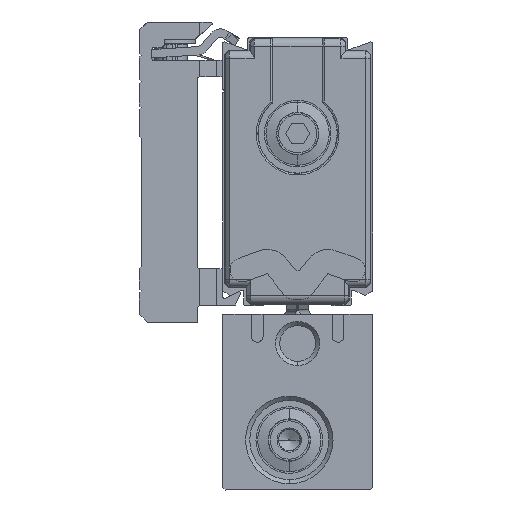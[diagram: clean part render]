
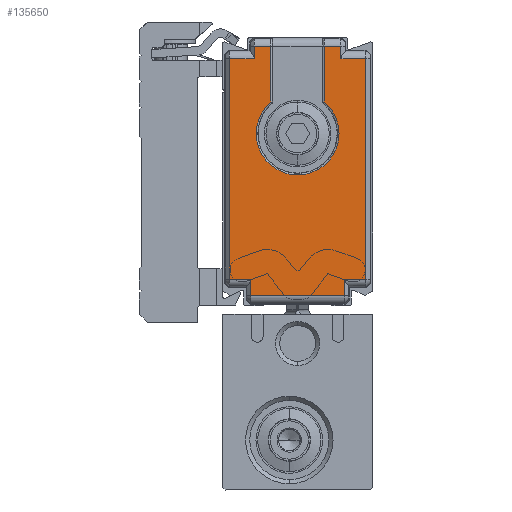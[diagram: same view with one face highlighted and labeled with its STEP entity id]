
A CAD part, left-side view. The second image highlights one B-rep face of the part: STEP entity #135650.
In plain terms, the highlighted planar face has unit normal (-1, 0, 0) as drawn and (0, 0, -1) by its records, which use the part's own axes.
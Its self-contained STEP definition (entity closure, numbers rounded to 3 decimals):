
#133560=CARTESIAN_POINT('',(29.865,18.802,-494.5));
#133570=VERTEX_POINT('',#133560);
#134020=CARTESIAN_POINT('',(3.435,18.802,-494.5));
#134030=VERTEX_POINT('',#134020);
#134080=CARTESIAN_POINT('',(3.435,18.802,-494.5));
#134090=CARTESIAN_POINT('',(7.84,18.802,-494.5));
#134100=CARTESIAN_POINT('',(12.245,18.802,-494.5));
#134110=CARTESIAN_POINT('',(21.055,18.802,-494.5));
#134120=CARTESIAN_POINT('',(25.46,18.802,-494.5));
#134130=CARTESIAN_POINT('',(29.865,18.802,-494.5));
#134140=B_SPLINE_CURVE_WITH_KNOTS('',3,(#134080,#134090,#134100,#134110,
#134120,#134130),.UNSPECIFIED.,.F.,.F.,(4,2,4),(24.334,
37.549,50.764),.UNSPECIFIED.);
#134150=EDGE_CURVE('',#134030,#133570,#134140,.T.);
#134270=CARTESIAN_POINT('',(16.65,27.,-494.5));
#134280=DIRECTION('',(0.,0.,1.));
#134290=DIRECTION('',(0.,1.,0.));
#134300=AXIS2_PLACEMENT_3D('',#134270,#134280,#134290);
#134310=PLANE('',#134300);
#134320=CARTESIAN_POINT('',(20.9,27.,-494.5));
#134330=DIRECTION('',(0.,0.,-1.));
#134340=DIRECTION('',(0.,1.,0.));
#134350=AXIS2_PLACEMENT_3D('',#134320,#134330,#134340);
#134360=CIRCLE('',#134350,4.974);
#134370=CARTESIAN_POINT('',(24.688,23.776,-494.5));
#134380=VERTEX_POINT('',#134370);
#134390=CARTESIAN_POINT('',(24.688,30.224,-494.5));
#134400=VERTEX_POINT('',#134390);
#134410=EDGE_CURVE('',#134380,#134400,#134360,.T.);
#134420=ORIENTED_EDGE('',*,*,#134410,.F.);
#134430=CARTESIAN_POINT('',(0.15,30.224,-494.5));
#134440=DIRECTION('',(1.,0.,0.));
#134450=VECTOR('',#134440,1.);
#134460=LINE('',#134430,#134450);
#134470=CARTESIAN_POINT('',(31.365,30.224,-494.5));
#134480=VERTEX_POINT('',#134470);
#134490=EDGE_CURVE('',#134400,#134480,#134460,.T.);
#134500=ORIENTED_EDGE('',*,*,#134490,.F.);
#134510=CARTESIAN_POINT('',(31.365,35.75,-494.5));
#134520=DIRECTION('',(0.,-1.,0.));
#134530=VECTOR('',#134520,1.);
#134540=LINE('',#134510,#134530);
#134550=CARTESIAN_POINT('',(31.365,32.198,-494.5));
#134560=VERTEX_POINT('',#134550);
#134570=EDGE_CURVE('',#134560,#134480,#134540,.T.);
#134580=ORIENTED_EDGE('',*,*,#134570,.T.);
#134590=CARTESIAN_POINT('',(29.365,32.198,-494.5));
#134600=CARTESIAN_POINT('',(29.782,32.198,-494.5));
#134610=CARTESIAN_POINT('',(30.198,32.198,-494.5));
#134620=CARTESIAN_POINT('',(30.865,32.198,-494.5));
#134630=CARTESIAN_POINT('',(31.115,32.198,-494.5));
#134640=CARTESIAN_POINT('',(31.365,32.198,-494.5));
#134650=B_SPLINE_CURVE_WITH_KNOTS('',3,(#134590,#134600,#134610,#134620,
#134630,#134640),.UNSPECIFIED.,.F.,.F.,(4,2,4),(37.587,
38.837,39.587),.UNSPECIFIED.);
#134660=CARTESIAN_POINT('',(29.865,32.198,-494.5));
#134670=VERTEX_POINT('',#134660);
#134680=EDGE_CURVE('',#134670,#134560,#134650,.T.);
#134690=ORIENTED_EDGE('',*,*,#134680,.T.);
#134700=CARTESIAN_POINT('',(29.865,35.75,-494.5));
#134710=DIRECTION('',(0.,1.,0.));
#134720=VECTOR('',#134710,1.);
#134730=LINE('',#134700,#134720);
#134740=CARTESIAN_POINT('',(29.865,35.198,-494.5));
#134750=VERTEX_POINT('',#134740);
#134760=EDGE_CURVE('',#134670,#134750,#134730,.T.);
#134770=ORIENTED_EDGE('',*,*,#134760,.F.);
#134780=CARTESIAN_POINT('',(3.435,35.198,-494.5));
#134790=CARTESIAN_POINT('',(7.84,35.198,-494.5));
#134800=CARTESIAN_POINT('',(12.245,35.198,-494.5));
#134810=CARTESIAN_POINT('',(21.055,35.198,-494.5));
#134820=CARTESIAN_POINT('',(25.46,35.198,-494.5));
#134830=CARTESIAN_POINT('',(29.865,35.198,-494.5));
#134840=B_SPLINE_CURVE_WITH_KNOTS('',3,(#134780,#134790,#134800,#134810,
#134820,#134830),.UNSPECIFIED.,.F.,.F.,(4,2,4),(24.308,
37.523,50.738),.UNSPECIFIED.);
#134850=CARTESIAN_POINT('',(3.435,35.198,-494.5));
#134860=VERTEX_POINT('',#134850);
#134870=EDGE_CURVE('',#134860,#134750,#134840,.T.);
#134880=ORIENTED_EDGE('',*,*,#134870,.T.);
#134890=CARTESIAN_POINT('',(3.435,35.75,-494.5));
#134900=DIRECTION('',(0.,1.,0.));
#134910=VECTOR('',#134900,1.);
#134920=LINE('',#134890,#134910);
#134930=CARTESIAN_POINT('',(3.435,32.648,-494.5));
#134940=VERTEX_POINT('',#134930);
#134950=EDGE_CURVE('',#134940,#134860,#134920,.T.);
#134960=ORIENTED_EDGE('',*,*,#134950,.T.);
#134970=CARTESIAN_POINT('',(3.935,32.648,-494.5));
#134980=CARTESIAN_POINT('',(3.435,32.648,-494.5));
#134990=CARTESIAN_POINT('',(2.935,32.648,-494.5));
#135000=CARTESIAN_POINT('',(2.102,32.648,-494.5));
#135010=CARTESIAN_POINT('',(1.768,32.648,-494.5));
#135020=CARTESIAN_POINT('',(1.435,32.648,-494.5));
#135030=B_SPLINE_CURVE_WITH_KNOTS('',3,(#134970,#134980,#134990,#135000,
#135010,#135020),.UNSPECIFIED.,.F.,.F.,(4,2,4),(37.084,
38.584,39.584),.UNSPECIFIED.);
#135040=CARTESIAN_POINT('',(1.435,32.648,-494.5));
#135050=VERTEX_POINT('',#135040);
#135060=EDGE_CURVE('',#134940,#135050,#135030,.T.);
#135070=ORIENTED_EDGE('',*,*,#135060,.F.);
#135080=CARTESIAN_POINT('',(1.435,35.75,-494.5));
#135090=DIRECTION('',(0.,1.,0.));
#135100=VECTOR('',#135090,1.);
#135110=LINE('',#135080,#135100);
#135120=CARTESIAN_POINT('',(1.435,21.352,-494.5));
#135130=VERTEX_POINT('',#135120);
#135140=EDGE_CURVE('',#135130,#135050,#135110,.T.);
#135150=ORIENTED_EDGE('',*,*,#135140,.T.);
#135160=CARTESIAN_POINT('',(3.935,21.352,-494.5));
#135170=CARTESIAN_POINT('',(3.435,21.352,-494.5));
#135180=CARTESIAN_POINT('',(2.935,21.352,-494.5));
#135190=CARTESIAN_POINT('',(2.102,21.352,-494.5));
#135200=CARTESIAN_POINT('',(1.768,21.352,-494.5));
#135210=CARTESIAN_POINT('',(1.435,21.352,-494.5));
#135220=B_SPLINE_CURVE_WITH_KNOTS('',3,(#135160,#135170,#135180,#135190,
#135200,#135210),.UNSPECIFIED.,.F.,.F.,(4,2,4),(37.084,
38.584,39.584),.UNSPECIFIED.);
#135230=CARTESIAN_POINT('',(3.435,21.352,-494.5));
#135240=VERTEX_POINT('',#135230);
#135250=EDGE_CURVE('',#135240,#135130,#135220,.T.);
#135260=ORIENTED_EDGE('',*,*,#135250,.T.);
#135270=CARTESIAN_POINT('',(3.435,35.75,-494.5));
#135280=DIRECTION('',(0.,-1.,0.));
#135290=VECTOR('',#135280,1.);
#135300=LINE('',#135270,#135290);
#135310=EDGE_CURVE('',#135240,#134030,#135300,.T.);
#135320=ORIENTED_EDGE('',*,*,#135310,.F.);
#135330=ORIENTED_EDGE('',*,*,#134150,.F.);
#135340=CARTESIAN_POINT('',(29.865,35.75,-494.5));
#135350=DIRECTION('',(0.,-1.,0.));
#135360=VECTOR('',#135350,1.);
#135370=LINE('',#135340,#135360);
#135380=CARTESIAN_POINT('',(29.865,21.802,-494.5));
#135390=VERTEX_POINT('',#135380);
#135400=EDGE_CURVE('',#135390,#133570,#135370,.T.);
#135410=ORIENTED_EDGE('',*,*,#135400,.T.);
#135420=CARTESIAN_POINT('',(29.365,21.802,-494.5));
#135430=CARTESIAN_POINT('',(29.782,21.802,-494.5));
#135440=CARTESIAN_POINT('',(30.198,21.802,-494.5));
#135450=CARTESIAN_POINT('',(30.865,21.802,-494.5));
#135460=CARTESIAN_POINT('',(31.115,21.802,-494.5));
#135470=CARTESIAN_POINT('',(31.365,21.802,-494.5));
#135480=B_SPLINE_CURVE_WITH_KNOTS('',3,(#135420,#135430,#135440,#135450,
#135460,#135470),.UNSPECIFIED.,.F.,.F.,(4,2,4),(37.587,
38.837,39.587),.UNSPECIFIED.);
#135490=CARTESIAN_POINT('',(31.365,21.802,-494.5));
#135500=VERTEX_POINT('',#135490);
#135510=EDGE_CURVE('',#135390,#135500,#135480,.T.);
#135520=ORIENTED_EDGE('',*,*,#135510,.F.);
#135530=CARTESIAN_POINT('',(31.365,23.776,-494.5));
#135540=VERTEX_POINT('',#135530);
#135550=EDGE_CURVE('',#135540,#135500,#134540,.T.);
#135560=ORIENTED_EDGE('',*,*,#135550,.T.);
#135570=CARTESIAN_POINT('',(0.15,23.776,-494.5));
#135580=DIRECTION('',(-1.,0.,0.));
#135590=VECTOR('',#135580,1.);
#135600=LINE('',#135570,#135590);
#135610=EDGE_CURVE('',#135540,#134380,#135600,.T.);
#135620=ORIENTED_EDGE('',*,*,#135610,.F.);
#135630=EDGE_LOOP('',(#135620,#135560,#135520,#135410,#135330,#135320,
#135260,#135150,#135070,#134960,#134880,#134770,#134690,#134580,#134500,
#134420));
#135640=FACE_OUTER_BOUND('',#135630,.T.);
#135650=ADVANCED_FACE('',(#135640),#134310,.F.);
